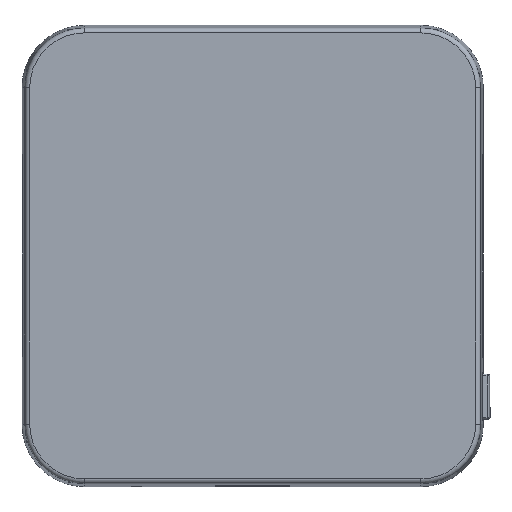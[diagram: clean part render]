
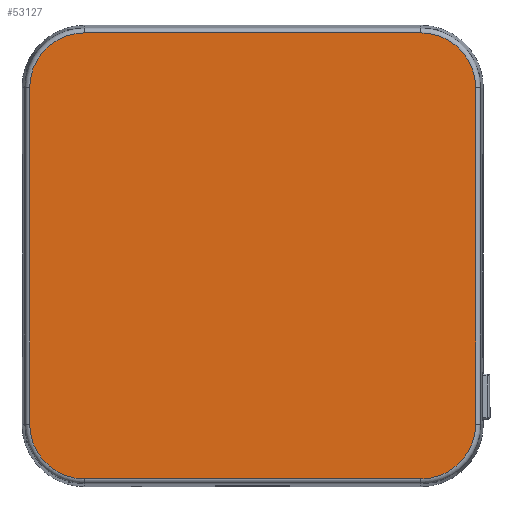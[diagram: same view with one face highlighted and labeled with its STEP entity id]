
A CAD part, top view. The second image highlights one B-rep face of the part: STEP entity #53127.
In plain terms, the highlighted planar face has unit normal (0, 0, 1).
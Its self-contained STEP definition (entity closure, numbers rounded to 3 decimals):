
#290 = EDGE_CURVE ( 'NONE', #16261, #33833, #17483, .T. ) ;
#611 = LINE ( 'NONE', #50263, #41893 ) ;
#673 = EDGE_CURVE ( 'NONE', #56873, #29991, #611, .T. ) ;
#707 = CARTESIAN_POINT ( 'NONE',  ( 23.201, -17., 6.2 ) ) ;
#1915 = ORIENTED_EDGE ( 'NONE', *, *, #15717, .T. ) ;
#2109 = AXIS2_PLACEMENT_3D ( 'NONE', #21038, #58762, #26458 ) ;
#5592 = CIRCLE ( 'NONE', #2109, 5.701 ) ;
#7734 = VECTOR ( 'NONE', #11676, 1000. ) ;
#10389 = DIRECTION ( 'NONE',  ( 0., 0., 1. ) ) ;
#10535 = CARTESIAN_POINT ( 'NONE',  ( 17.5, 23.701, 6.2 ) ) ;
#10872 = DIRECTION ( 'NONE',  ( 0., 0., 1. ) ) ;
#11147 = EDGE_CURVE ( 'NONE', #29991, #68111, #69221, .T. ) ;
#11282 = ORIENTED_EDGE ( 'NONE', *, *, #290, .T. ) ;
#11676 = DIRECTION ( 'NONE',  ( 1., 0., 0. ) ) ;
#11990 = VERTEX_POINT ( 'NONE', #57369 ) ;
#15058 = AXIS2_PLACEMENT_3D ( 'NONE', #20614, #58365, #26054 ) ;
#15717 = EDGE_CURVE ( 'NONE', #68111, #66088, #63180, .T. ) ;
#16201 = DIRECTION ( 'NONE',  ( 0., 0., 1. ) ) ;
#16261 = VERTEX_POINT ( 'NONE', #40945 ) ;
#16346 = EDGE_CURVE ( 'NONE', #66088, #19341, #52076, .T. ) ;
#17300 = CARTESIAN_POINT ( 'NONE',  ( 17.5, -22.701, 6.2 ) ) ;
#17483 = CIRCLE ( 'NONE', #29183, 5.701 ) ;
#17515 = CARTESIAN_POINT ( 'NONE',  ( -17.5, 23.701, 6.2 ) ) ;
#19341 = VERTEX_POINT ( 'NONE', #64496 ) ;
#19787 = CARTESIAN_POINT ( 'NONE',  ( -23.201, -17., 6.2 ) ) ;
#20614 = CARTESIAN_POINT ( 'NONE',  ( -17.5, -17., 6.2 ) ) ;
#21038 = CARTESIAN_POINT ( 'NONE',  ( 17.5, 18., 6.2 ) ) ;
#21259 = ORIENTED_EDGE ( 'NONE', *, *, #43835, .T. ) ;
#23417 = EDGE_CURVE ( 'NONE', #11990, #56873, #5592, .T. ) ;
#26054 = DIRECTION ( 'NONE',  ( 1., 0., 0. ) ) ;
#26458 = DIRECTION ( 'NONE',  ( 1., 0., 0. ) ) ;
#29183 = AXIS2_PLACEMENT_3D ( 'NONE', #43158, #10872, #48591 ) ;
#29991 = VERTEX_POINT ( 'NONE', #17515 ) ;
#30259 = ORIENTED_EDGE ( 'NONE', *, *, #23417, .T. ) ;
#33065 = VECTOR ( 'NONE', #59164, 1000. ) ;
#33833 = VERTEX_POINT ( 'NONE', #707 ) ;
#34892 = FACE_OUTER_BOUND ( 'NONE', #57333, .T. ) ;
#36248 = VECTOR ( 'NONE', #57508, 1000. ) ;
#40945 = CARTESIAN_POINT ( 'NONE',  ( 17.5, -22.701, 6.2 ) ) ;
#41893 = VECTOR ( 'NONE', #44832, 1000. ) ;
#43158 = CARTESIAN_POINT ( 'NONE',  ( 17.5, -17., 6.2 ) ) ;
#43285 = ORIENTED_EDGE ( 'NONE', *, *, #11147, .T. ) ;
#43835 = EDGE_CURVE ( 'NONE', #33833, #11990, #61718, .T. ) ;
#44832 = DIRECTION ( 'NONE',  ( -1., 0., 0. ) ) ;
#48086 = ORIENTED_EDGE ( 'NONE', *, *, #53829, .T. ) ;
#48096 = DIRECTION ( 'NONE',  ( 1., 0., 0. ) ) ;
#48362 = CARTESIAN_POINT ( 'NONE',  ( -23.201, -17., 6.2 ) ) ;
#48507 = CARTESIAN_POINT ( 'NONE',  ( -17.5, 18., 6.2 ) ) ;
#48591 = DIRECTION ( 'NONE',  ( 1., 0., 0. ) ) ;
#50009 = ORIENTED_EDGE ( 'NONE', *, *, #673, .T. ) ;
#50263 = CARTESIAN_POINT ( 'NONE',  ( -17.5, 23.701, 6.2 ) ) ;
#50756 = LINE ( 'NONE', #17300, #7734 ) ;
#50848 = CARTESIAN_POINT ( 'NONE',  ( -23.201, 18., 6.2 ) ) ;
#52076 = CIRCLE ( 'NONE', #15058, 5.701 ) ;
#53127 = ADVANCED_FACE ( 'NONE', ( #34892 ), #53303, .T. ) ;
#53303 = PLANE ( 'NONE',  #63299 ) ;
#53776 = CARTESIAN_POINT ( 'NONE',  ( 23.201, 18., 6.2 ) ) ;
#53829 = EDGE_CURVE ( 'NONE', #19341, #16261, #50756, .T. ) ;
#53941 = DIRECTION ( 'NONE',  ( 1., 0., 0. ) ) ;
#54418 = AXIS2_PLACEMENT_3D ( 'NONE', #48507, #16201, #53941 ) ;
#56873 = VERTEX_POINT ( 'NONE', #10535 ) ;
#57333 = EDGE_LOOP ( 'NONE', ( #48086, #11282, #21259, #30259, #50009, #43285, #1915, #69365 ) ) ;
#57369 = CARTESIAN_POINT ( 'NONE',  ( 23.201, 18., 6.2 ) ) ;
#57508 = DIRECTION ( 'NONE',  ( 0., -1., 0. ) ) ;
#58365 = DIRECTION ( 'NONE',  ( 0., 0., 1. ) ) ;
#58762 = DIRECTION ( 'NONE',  ( 0., 0., 1. ) ) ;
#59164 = DIRECTION ( 'NONE',  ( 0., 1., 0. ) ) ;
#61718 = LINE ( 'NONE', #53776, #33065 ) ;
#63180 = LINE ( 'NONE', #19787, #36248 ) ;
#63299 = AXIS2_PLACEMENT_3D ( 'NONE', #64104, #10389, #48096 ) ;
#64104 = CARTESIAN_POINT ( 'NONE',  ( 17.5, 18., 6.2 ) ) ;
#64496 = CARTESIAN_POINT ( 'NONE',  ( -17.5, -22.701, 6.2 ) ) ;
#66088 = VERTEX_POINT ( 'NONE', #48362 ) ;
#68111 = VERTEX_POINT ( 'NONE', #50848 ) ;
#69221 = CIRCLE ( 'NONE', #54418, 5.701 ) ;
#69365 = ORIENTED_EDGE ( 'NONE', *, *, #16346, .T. ) ;
